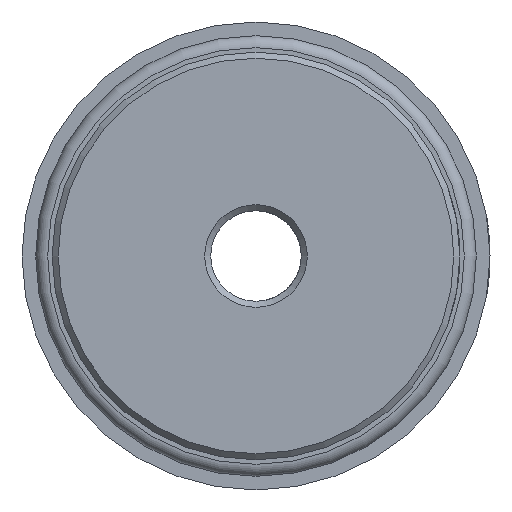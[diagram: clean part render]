
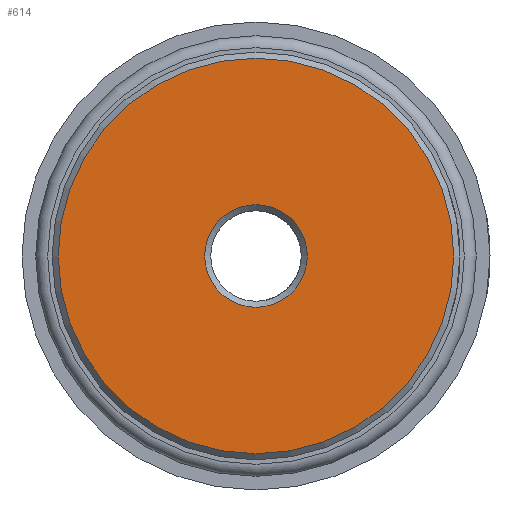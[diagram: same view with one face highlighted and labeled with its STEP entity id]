
A CAD part, left-side view. The second image highlights one B-rep face of the part: STEP entity #614.
In plain terms, the highlighted planar face has unit normal (-1, 0, 0).
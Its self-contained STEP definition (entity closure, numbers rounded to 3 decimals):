
#614 = ADVANCED_FACE( 'NONE', ( #1309, #1310 ), #1311, .F. );
#1309 = FACE_OUTER_BOUND( '', #2058, .T. );
#1310 = FACE_BOUND( '', #2059, .T. );
#1311 = PLANE( '', #2060 );
#2058 = EDGE_LOOP( '', ( #3295 ) );
#2059 = EDGE_LOOP( '', ( #3296 ) );
#2060 = AXIS2_PLACEMENT_3D( '', #3297, #3298, #3299 );
#3295 = ORIENTED_EDGE( '', *, *, #3904, .T. );
#3296 = ORIENTED_EDGE( '', *, *, #4142, .T. );
#3297 = CARTESIAN_POINT( '', ( 0., 1.5, 0. ) );
#3298 = DIRECTION( '', ( 1., 0., 0. ) );
#3299 = DIRECTION( '', ( 0., 1., 0. ) );
#3904 = EDGE_CURVE( 'NONE', #4558, #4558, #4559, .F. );
#4142 = EDGE_CURVE( 'NONE', #4887, #4887, #4888, .T. );
#4558 = VERTEX_POINT( '', #5446 );
#4559 = CIRCLE( '', #5447, 6.55 );
#4887 = VERTEX_POINT( '', #5859 );
#4888 = CIRCLE( '', #5860, 1.7 );
#5446 = CARTESIAN_POINT( '', ( 0., 0., -6.55 ) );
#5447 = AXIS2_PLACEMENT_3D( '', #6303, #6304, #6305 );
#5859 = CARTESIAN_POINT( '', ( 0., 0., -1.7 ) );
#5860 = AXIS2_PLACEMENT_3D( '', #6646, #6647, #6648 );
#6303 = CARTESIAN_POINT( '', ( 0., 0., 0. ) );
#6304 = DIRECTION( '', ( 1., 0., 0. ) );
#6305 = DIRECTION( '', ( 0., 0., -1. ) );
#6646 = CARTESIAN_POINT( '', ( 0., 0., 0. ) );
#6647 = DIRECTION( '', ( 1., 0., 0. ) );
#6648 = DIRECTION( '', ( 0., 0., -1. ) );
